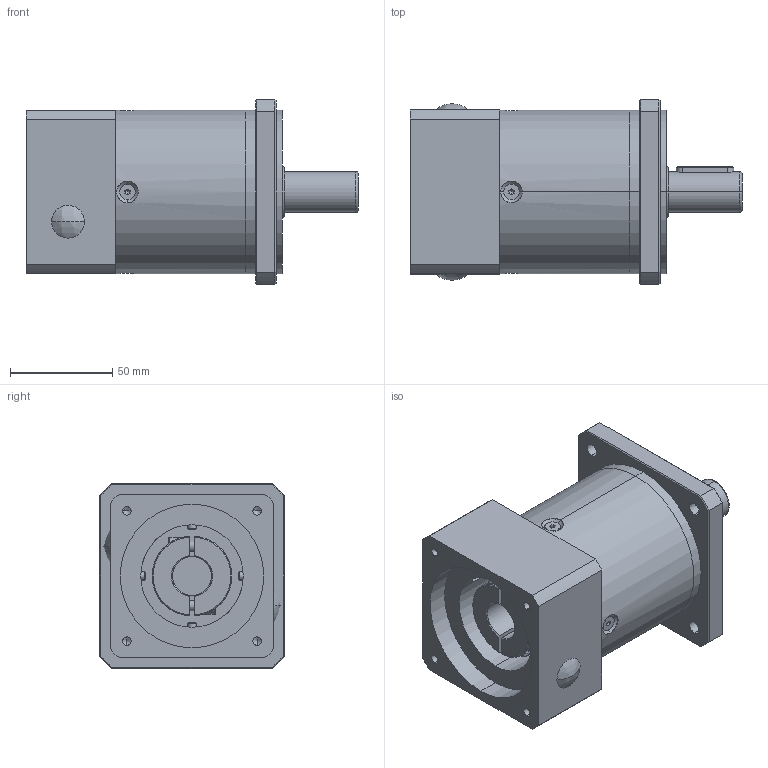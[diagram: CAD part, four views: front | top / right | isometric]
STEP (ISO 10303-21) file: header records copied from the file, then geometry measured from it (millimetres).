
FILE_DESCRIPTION (( 'STEP AP214' ), '1' );
FILE_NAME ('PLF-080-L2-S2-P2 19-70-90-M5.STEP', '2023-08-16T08:00:08', ( '微软用户' ), ( '微软中国' ), 'SwSTEP 2.0', 'SolidWorks 2018', '' );
FILE_SCHEMA (( 'AUTOMOTIVE_DESIGN' ));
Length unit declared in the file: millimetre
Products named in the file (8): hexagon socket countersunk head screws gb_GB_FASTENER_SCREWS_HSCHS M4X16-N; hexagon socket head cap screws gb_GB_FASTENER_SCREWS_HSHCS M5X16-N; PLF-080二级齿圈-外形; PLF-080-L2-S2-P2 19-70-90-M5; PLF-080输入端盖-外形70-M5-90; PF80黑裔; PLF-080薊粣ん-俋倛19; PLF-080怀堤傷裔-俋倛
Assembly tree (12 placements, depth 2):
  PLF-080-L2-S2-P2 19-70-90-M5
    PLF-080怀堤傷裔-俋倛
    PLF-080二级齿圈-外形
    PLF-080输入端盖-外形70-M5-90
    PLF-080薊粣ん-俋倛19
    hexagon socket countersunk head screws gb_GB_FASTENER_SCREWS_HSCHS M4X16-N  x4
    PF80黑裔  x2
    hexagon socket head cap screws gb_GB_FASTENER_SCREWS_HSHCS M5X16-N  x2
Bounding box: 162 x 90 x 90 mm (x, y, z)
Volume: 462616.4 mm3; surface area: 102842 mm2
Topology: 13 solids, 13 shells, 379 faces, 898 edges, 543 vertices
Faces by surface type: plane 148, cylinder 130, cone 71, bspline 30
Entity records: 8956 total; most frequent: CARTESIAN_POINT 2647, DIRECTION 1289, ORIENTED_EDGE 1204, EDGE_CURVE 602, AXIS2_PLACEMENT_3D 509, VERTEX_POINT 379, EDGE_LOOP 305, VECTOR 271
